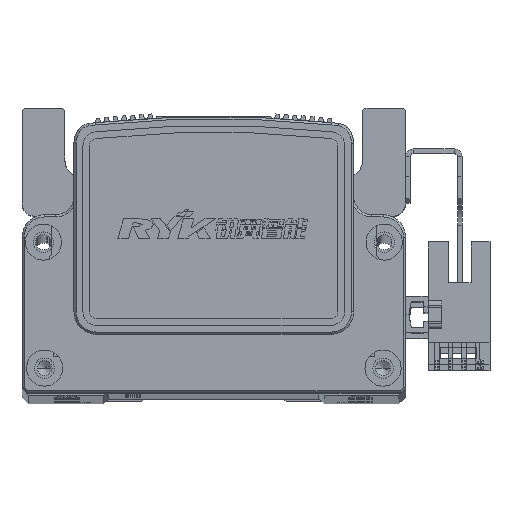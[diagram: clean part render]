
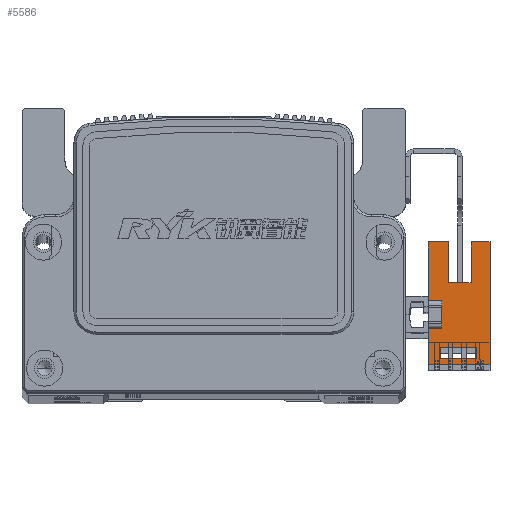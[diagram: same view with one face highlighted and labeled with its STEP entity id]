
A CAD part, top view. The second image highlights one B-rep face of the part: STEP entity #5586.
In plain terms, the highlighted planar face has unit normal (0, 0, 1) as drawn and (1, 0, 0) by its records, which use the part's own axes.
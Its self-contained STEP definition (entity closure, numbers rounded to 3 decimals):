
#3318 = EDGE_CURVE ( 'NONE', #59090, #59094, #39393, .T. ) ;
#3419 = EDGE_CURVE ( 'NONE', #59125, #59035, #38622, .T. ) ;
#3427 = EDGE_CURVE ( 'NONE', #59166, #59162, #38984, .T. ) ;
#3468 = EDGE_CURVE ( 'NONE', #59194, #59090, #59425, .T. ) ;
#3475 = EDGE_CURVE ( 'NONE', #59194, #59125, #59449, .T. ) ;
#3477 = EDGE_CURVE ( 'NONE', #59146, #59181, #59436, .T. ) ;
#3481 = EDGE_CURVE ( 'NONE', #59109, #59163, #59437, .T. ) ;
#3494 = EDGE_CURVE ( 'NONE', #59161, #59162, #59451, .T. ) ;
#3496 = EDGE_CURVE ( 'NONE', #59094, #59169, #59434, .T. ) ;
#3505 = EDGE_CURVE ( 'NONE', #59170, #59151, #59399, .T. ) ;
#3524 = EDGE_CURVE ( 'NONE', #59169, #59196, #59440, .T. ) ;
#3545 = EDGE_CURVE ( 'NONE', #59196, #59161, #59487, .T. ) ;
#3560 = EDGE_CURVE ( 'NONE', #59035, #59109, #59511, .T. ) ;
#3569 = EDGE_CURVE ( 'NONE', #59163, #59166, #59495, .T. ) ;
#3577 = EDGE_CURVE ( 'NONE', #59151, #59146, #59486, .T. ) ;
#3592 = EDGE_CURVE ( 'NONE', #59181, #59170, #59463, .T. ) ;
#5586 = ADVANCED_FACE ( 'NONE', ( #59979, #59943 ), #63305, .T. ) ;
#18010 = CARTESIAN_POINT ( 'NONE',  ( 3.2, -3.1, 3. ) ) ;
#18035 = CARTESIAN_POINT ( 'NONE',  ( 3.2, 16.1, -6.5 ) ) ;
#18057 = CARTESIAN_POINT ( 'NONE',  ( 3.2, 16.1, -10.7 ) ) ;
#18069 = CARTESIAN_POINT ( 'NONE',  ( 3.2, -3.1, 0. ) ) ;
#18070 = CARTESIAN_POINT ( 'NONE',  ( 3.2, -11.1, 3. ) ) ;
#18080 = CARTESIAN_POINT ( 'NONE',  ( 3.2, 16.1, 3. ) ) ;
#18082 = CARTESIAN_POINT ( 'NONE',  ( 3.2, 16.1, -1.5 ) ) ;
#18085 = CARTESIAN_POINT ( 'NONE',  ( 3.2, 3.1, 3. ) ) ;
#18086 = CARTESIAN_POINT ( 'NONE',  ( 3.2, -7.33, -7.7 ) ) ;
#18087 = CARTESIAN_POINT ( 'NONE',  ( 3.2, -9.83, -7.7 ) ) ;
#18101 = CARTESIAN_POINT ( 'NONE',  ( 3.2, -7.33, 0.3 ) ) ;
#18106 = CARTESIAN_POINT ( 'NONE',  ( 3.2, -11.1, -10.7 ) ) ;
#18115 = CARTESIAN_POINT ( 'NONE',  ( 3.2, 7.1, -6.5 ) ) ;
#18121 = CARTESIAN_POINT ( 'NONE',  ( 3.2, 3.1, 0. ) ) ;
#18128 = CARTESIAN_POINT ( 'NONE',  ( 3.2, -9.83, 0.3 ) ) ;
#18144 = CARTESIAN_POINT ( 'NONE',  ( 3.2, 7.1, -1.5 ) ) ;
#18662 = DIRECTION ( 'NONE',  ( 0., 0., 1. ) ) ;
#18691 = CARTESIAN_POINT ( 'NONE',  ( 3.2, 16.1, -10.7 ) ) ;
#18757 = CARTESIAN_POINT ( 'NONE',  ( 3.2, 16.1, 3. ) ) ;
#18759 = DIRECTION ( 'NONE',  ( 0., 1., 0. ) ) ;
#18766 = DIRECTION ( 'NONE',  ( 0., 1., 0. ) ) ;
#18771 = CARTESIAN_POINT ( 'NONE',  ( 3.2, 16.1, 3. ) ) ;
#18780 = CARTESIAN_POINT ( 'NONE',  ( 3.2, 0., 0. ) ) ;
#18788 = DIRECTION ( 'NONE',  ( 0., 1., 0. ) ) ;
#18790 = CARTESIAN_POINT ( 'NONE',  ( 3.2, 16.1, -10.7 ) ) ;
#18798 = CARTESIAN_POINT ( 'NONE',  ( 3.2, -11.1, 3. ) ) ;
#18807 = DIRECTION ( 'NONE',  ( 0., 0., 1. ) ) ;
#18809 = CARTESIAN_POINT ( 'NONE',  ( 3.2, -7.33, -10.7 ) ) ;
#18810 = DIRECTION ( 'NONE',  ( 0., 0., 1. ) ) ;
#18813 = DIRECTION ( 'NONE',  ( 0., 1., 0. ) ) ;
#18823 = CARTESIAN_POINT ( 'NONE',  ( 3.2, -9.83, -10.7 ) ) ;
#18828 = DIRECTION ( 'NONE',  ( 0., 0., -1. ) ) ;
#18832 = CARTESIAN_POINT ( 'NONE',  ( 3.2, 25.1, -6.5 ) ) ;
#18833 = DIRECTION ( 'NONE',  ( 0., -1., 0. ) ) ;
#18835 = DIRECTION ( 'NONE',  ( 0., 0., 1. ) ) ;
#18857 = CARTESIAN_POINT ( 'NONE',  ( 3.2, 16.1, -10.7 ) ) ;
#18858 = DIRECTION ( 'NONE',  ( 0., 0., 1. ) ) ;
#18863 = CARTESIAN_POINT ( 'NONE',  ( 3.2, 7.1, -6.5 ) ) ;
#18869 = CARTESIAN_POINT ( 'NONE',  ( 3.2, 3.1, 3. ) ) ;
#18874 = DIRECTION ( 'NONE',  ( 0., 0., -1. ) ) ;
#18876 = DIRECTION ( 'NONE',  ( 0., 0., 1. ) ) ;
#18884 = CARTESIAN_POINT ( 'NONE',  ( 3.2, 25.1, -1.5 ) ) ;
#18888 = DIRECTION ( 'NONE',  ( 0., 1., 0. ) ) ;
#18903 = CARTESIAN_POINT ( 'NONE',  ( 3.2, -3.1, 3. ) ) ;
#18924 = DIRECTION ( 'NONE',  ( 0., 1., 0. ) ) ;
#18925 = DIRECTION ( 'NONE',  ( 0., -1., 0. ) ) ;
#18926 = CARTESIAN_POINT ( 'NONE',  ( 3.2, 16.1, 0.3 ) ) ;
#18942 = CARTESIAN_POINT ( 'NONE',  ( 3.2, 16.1, -7.7 ) ) ;
#21805 = ORIENTED_EDGE ( 'NONE', *, *, #3318, .T. ) ;
#21871 = ORIENTED_EDGE ( 'NONE', *, *, #3592, .F. ) ;
#21883 = ORIENTED_EDGE ( 'NONE', *, *, #3468, .T. ) ;
#21889 = ORIENTED_EDGE ( 'NONE', *, *, #3496, .T. ) ;
#21895 = ORIENTED_EDGE ( 'NONE', *, *, #3419, .F. ) ;
#21905 = ORIENTED_EDGE ( 'NONE', *, *, #3577, .F. ) ;
#21911 = ORIENTED_EDGE ( 'NONE', *, *, #3505, .F. ) ;
#21913 = ORIENTED_EDGE ( 'NONE', *, *, #3545, .T. ) ;
#21927 = ORIENTED_EDGE ( 'NONE', *, *, #3569, .F. ) ;
#21935 = ORIENTED_EDGE ( 'NONE', *, *, #3475, .F. ) ;
#21955 = ORIENTED_EDGE ( 'NONE', *, *, #3524, .T. ) ;
#21961 = ORIENTED_EDGE ( 'NONE', *, *, #3481, .F. ) ;
#21971 = ORIENTED_EDGE ( 'NONE', *, *, #3494, .T. ) ;
#21985 = ORIENTED_EDGE ( 'NONE', *, *, #3427, .F. ) ;
#22021 = ORIENTED_EDGE ( 'NONE', *, *, #3477, .F. ) ;
#22053 = ORIENTED_EDGE ( 'NONE', *, *, #3560, .F. ) ;
#30230 = AXIS2_PLACEMENT_3D ( 'NONE', #63284, #63306, #63320 ) ;
#38622 = LINE ( 'NONE', #18757, #38669 ) ;
#38669 = VECTOR ( 'NONE', #18759, 1000. ) ;
#38984 = LINE ( 'NONE', #18771, #39052 ) ;
#39052 = VECTOR ( 'NONE', #18766, 1000. ) ;
#39393 = LINE ( 'NONE', #18691, #39400 ) ;
#39400 = VECTOR ( 'NONE', #18662, 1000. ) ;
#59035 = VERTEX_POINT ( 'NONE', #18010 ) ;
#59090 = VERTEX_POINT ( 'NONE', #18057 ) ;
#59094 = VERTEX_POINT ( 'NONE', #18035 ) ;
#59109 = VERTEX_POINT ( 'NONE', #18069 ) ;
#59125 = VERTEX_POINT ( 'NONE', #18070 ) ;
#59146 = VERTEX_POINT ( 'NONE', #18086 ) ;
#59151 = VERTEX_POINT ( 'NONE', #18087 ) ;
#59161 = VERTEX_POINT ( 'NONE', #18082 ) ;
#59162 = VERTEX_POINT ( 'NONE', #18080 ) ;
#59163 = VERTEX_POINT ( 'NONE', #18121 ) ;
#59166 = VERTEX_POINT ( 'NONE', #18085 ) ;
#59169 = VERTEX_POINT ( 'NONE', #18115 ) ;
#59170 = VERTEX_POINT ( 'NONE', #18128 ) ;
#59181 = VERTEX_POINT ( 'NONE', #18101 ) ;
#59194 = VERTEX_POINT ( 'NONE', #18106 ) ;
#59196 = VERTEX_POINT ( 'NONE', #18144 ) ;
#59388 = VECTOR ( 'NONE', #18835, 1000. ) ;
#59399 = LINE ( 'NONE', #18823, #59435 ) ;
#59405 = VECTOR ( 'NONE', #18813, 1000. ) ;
#59410 = VECTOR ( 'NONE', #18788, 1000. ) ;
#59414 = VECTOR ( 'NONE', #18858, 1000. ) ;
#59422 = VECTOR ( 'NONE', #18810, 1000. ) ;
#59425 = LINE ( 'NONE', #18790, #59405 ) ;
#59426 = VECTOR ( 'NONE', #18807, 1000. ) ;
#59434 = LINE ( 'NONE', #18832, #59438 ) ;
#59435 = VECTOR ( 'NONE', #18828, 1000. ) ;
#59436 = LINE ( 'NONE', #18809, #59422 ) ;
#59437 = LINE ( 'NONE', #18780, #59410 ) ;
#59438 = VECTOR ( 'NONE', #18833, 1000. ) ;
#59440 = LINE ( 'NONE', #18863, #59414 ) ;
#59449 = LINE ( 'NONE', #18798, #59426 ) ;
#59451 = LINE ( 'NONE', #18857, #59388 ) ;
#59463 = LINE ( 'NONE', #18926, #59465 ) ;
#59465 = VECTOR ( 'NONE', #18925, 1000. ) ;
#59466 = VECTOR ( 'NONE', #18876, 1000. ) ;
#59483 = VECTOR ( 'NONE', #18888, 1000. ) ;
#59486 = LINE ( 'NONE', #18942, #59489 ) ;
#59487 = LINE ( 'NONE', #18884, #59483 ) ;
#59489 = VECTOR ( 'NONE', #18924, 1000. ) ;
#59495 = LINE ( 'NONE', #18869, #59466 ) ;
#59510 = VECTOR ( 'NONE', #18874, 1000. ) ;
#59511 = LINE ( 'NONE', #18903, #59510 ) ;
#59943 = FACE_BOUND ( 'NONE', #68838, .T. ) ;
#59979 = FACE_OUTER_BOUND ( 'NONE', #68833, .T. ) ;
#63284 = CARTESIAN_POINT ( 'NONE',  ( 3.2, 16.1, -10.7 ) ) ;
#63305 = PLANE ( 'NONE',  #30230 ) ;
#63306 = DIRECTION ( 'NONE',  ( 1., 0., 0. ) ) ;
#63320 = DIRECTION ( 'NONE',  ( 0., 1., 0. ) ) ;
#68833 = EDGE_LOOP ( 'NONE', ( #21889, #21955, #21913, #21971, #21985, #21927, #21961, #22053, #21895, #21935, #21883, #21805 ) ) ;
#68838 = EDGE_LOOP ( 'NONE', ( #21871, #22021, #21905, #21911 ) ) ;
